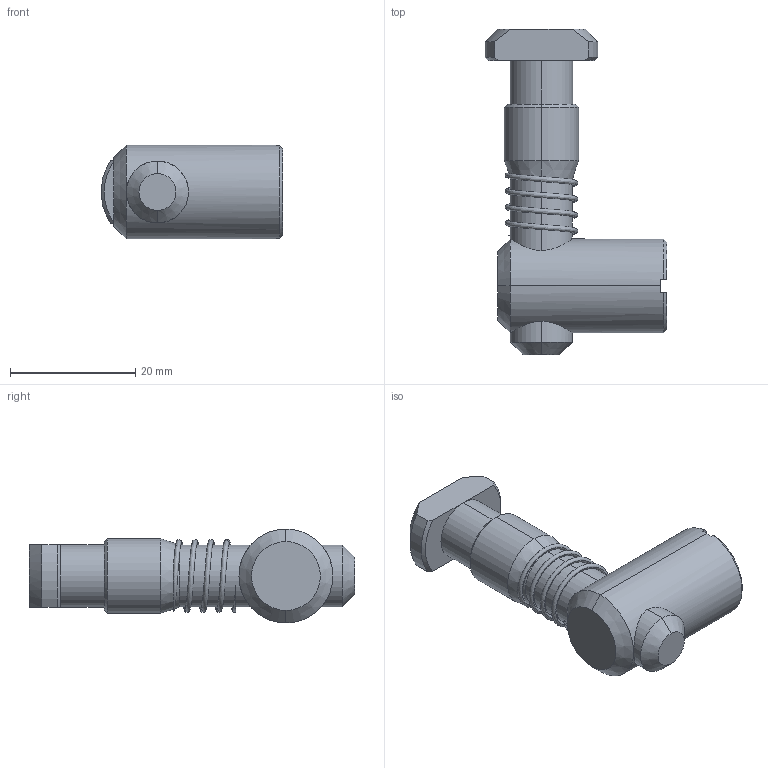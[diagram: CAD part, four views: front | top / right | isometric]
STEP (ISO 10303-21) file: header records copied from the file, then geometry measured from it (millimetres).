
FILE_DESCRIPTION (( 'STEP AP214' ), '1' );
FILE_NAME ('2.04.spsp.STEP', '2015-05-30T09:40:35', ( '' ), ( '' ), 'SwSTEP 2.0', 'SolidWorks 2015', '' );
FILE_SCHEMA (( 'AUTOMOTIVE_DESIGN' ));
Length unit declared in the file: millimetre
Products named in the file (1): 2.04.spsp
Bounding box: 28.97 x 52 x 15 mm (x, y, z)
Surface area: 4708.9 mm2 (no closed solid volume)
Topology: 0 solids, 4 shells, 65 faces, 159 edges, 99 vertices
Faces by surface type: plane 31, cone 18, cylinder 14, bspline 2
Entity records: 3851 total; most frequent: CARTESIAN_POINT 2326, ORIENTED_EDGE 306, DIRECTION 299, EDGE_CURVE 157, AXIS2_PLACEMENT_3D 110, VERTEX_POINT 99, VECTOR 79, LINE 79
